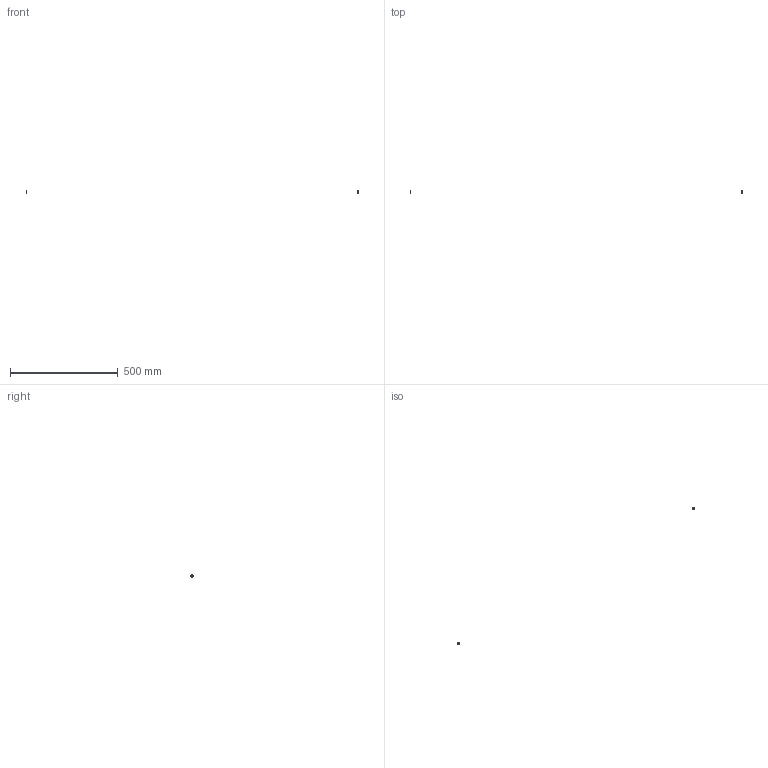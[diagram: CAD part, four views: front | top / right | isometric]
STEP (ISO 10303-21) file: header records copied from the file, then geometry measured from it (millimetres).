
FILE_DESCRIPTION(/* description */ (''),/* implementation_level */ '2;1');
FILE_NAME(/* name */ 'Y-489C~1',/* time_stamp */ '2014-02-14T19:42:08+01:00',/* author */ (''),/* organization */ (''),/* preprocessor_version */ 'ST-DEVELOPER v14',/* originating_system */ '',/* authorisation */ '');
FILE_SCHEMA (('AUTOMOTIVE_DESIGN'));
Length unit declared in the file: millimetre
Products named in the file (2): Document; washer DIN9021-like, form G, M5
Assembly tree (1 placements, depth 2):
  Document
    washer DIN9021-like, form G, M5
Bounding box: 1540 x 12 x 12 mm (x, y, z)
Surface area: 578.1 mm2 (no closed solid volume)
Topology: 0 solids, 12 shells, 12 faces, 40 edges, 40 vertices
Faces by surface type: bspline 8, plane 4
Entity records: 1037 total; most frequent: CARTESIAN_POINT 512, B_SPLINE_CURVE_WITH_KNOTS 48, ORIENTED_EDGE 40, PCURVE 40, DEFINITIONAL_REPRESENTATION 40, SURFACE_CURVE 40, EDGE_CURVE 40, VERTEX_POINT 40
